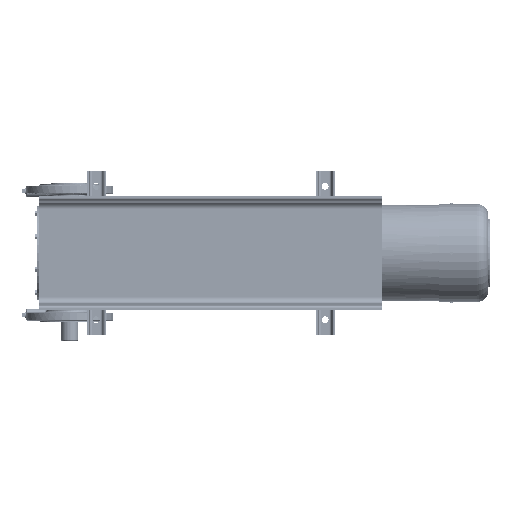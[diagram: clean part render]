
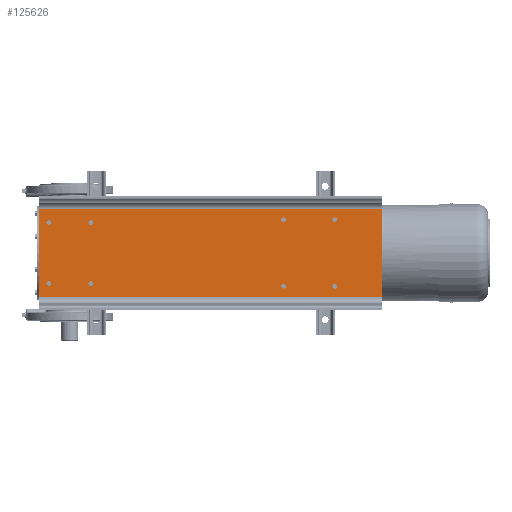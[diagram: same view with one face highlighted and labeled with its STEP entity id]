
A CAD part, left-side view. The second image highlights one B-rep face of the part: STEP entity #125626.
In plain terms, the highlighted planar face has unit normal (-1, 0, 0) as drawn and (1, 0, 0) by its records, which use the part's own axes.
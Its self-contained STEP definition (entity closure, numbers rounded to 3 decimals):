
#124920=DIRECTION('',(0.,0.,-1.));
#124921=VECTOR('',#124920,232.058);
#124922=CARTESIAN_POINT('',(10.,0.,116.029));
#124923=LINE('',#124922,#124921);
#125054=DIRECTION('',(0.,1.,0.));
#125055=VECTOR('',#125054,900.);
#125056=CARTESIAN_POINT('',(10.,0.,-116.029));
#125057=LINE('',#125056,#125055);
#125058=DIRECTION('',(0.,1.,0.));
#125059=VECTOR('',#125058,900.);
#125060=CARTESIAN_POINT('',(10.,0.,116.029));
#125061=LINE('',#125060,#125059);
#125062=CARTESIAN_POINT('',(10.,875.,-80.));
#125063=DIRECTION('',(-1.,0.,0.));
#125064=DIRECTION('',(0.,1.,0.));
#125065=AXIS2_PLACEMENT_3D('',#125062,#125063,#125064);
#125067=CARTESIAN_POINT('',(10.,875.,-80.));
#125068=DIRECTION('',(-1.,0.,0.));
#125069=DIRECTION('',(0.,-1.,0.));
#125070=AXIS2_PLACEMENT_3D('',#125067,#125068,#125069);
#125072=CARTESIAN_POINT('',(10.,875.,80.));
#125073=DIRECTION('',(-1.,0.,0.));
#125074=DIRECTION('',(0.,1.,0.));
#125075=AXIS2_PLACEMENT_3D('',#125072,#125073,#125074);
#125077=CARTESIAN_POINT('',(10.,875.,80.));
#125078=DIRECTION('',(-1.,0.,0.));
#125079=DIRECTION('',(0.,-1.,0.));
#125080=AXIS2_PLACEMENT_3D('',#125077,#125078,#125079);
#125082=CARTESIAN_POINT('',(10.,765.,-80.));
#125083=DIRECTION('',(-1.,0.,0.));
#125084=DIRECTION('',(0.,1.,0.));
#125085=AXIS2_PLACEMENT_3D('',#125082,#125083,#125084);
#125087=CARTESIAN_POINT('',(10.,765.,-80.));
#125088=DIRECTION('',(-1.,0.,0.));
#125089=DIRECTION('',(0.,-1.,0.));
#125090=AXIS2_PLACEMENT_3D('',#125087,#125088,#125089);
#125092=CARTESIAN_POINT('',(10.,765.,80.));
#125093=DIRECTION('',(-1.,0.,0.));
#125094=DIRECTION('',(0.,1.,0.));
#125095=AXIS2_PLACEMENT_3D('',#125092,#125093,#125094);
#125097=CARTESIAN_POINT('',(10.,765.,80.));
#125098=DIRECTION('',(-1.,0.,0.));
#125099=DIRECTION('',(0.,-1.,0.));
#125100=AXIS2_PLACEMENT_3D('',#125097,#125098,#125099);
#125102=CARTESIAN_POINT('',(10.,259.,-87.5));
#125103=DIRECTION('',(-1.,0.,0.));
#125104=DIRECTION('',(0.,1.,0.));
#125105=AXIS2_PLACEMENT_3D('',#125102,#125103,#125104);
#125107=CARTESIAN_POINT('',(10.,259.,-87.5));
#125108=DIRECTION('',(-1.,0.,0.));
#125109=DIRECTION('',(0.,-1.,0.));
#125110=AXIS2_PLACEMENT_3D('',#125107,#125108,#125109);
#125112=CARTESIAN_POINT('',(10.,259.,87.5));
#125113=DIRECTION('',(-1.,0.,0.));
#125114=DIRECTION('',(0.,1.,0.));
#125115=AXIS2_PLACEMENT_3D('',#125112,#125113,#125114);
#125117=CARTESIAN_POINT('',(10.,259.,87.5));
#125118=DIRECTION('',(-1.,0.,0.));
#125119=DIRECTION('',(0.,-1.,0.));
#125120=AXIS2_PLACEMENT_3D('',#125117,#125118,#125119);
#125122=CARTESIAN_POINT('',(10.,125.,-87.5));
#125123=DIRECTION('',(-1.,0.,0.));
#125124=DIRECTION('',(0.,1.,0.));
#125125=AXIS2_PLACEMENT_3D('',#125122,#125123,#125124);
#125127=CARTESIAN_POINT('',(10.,125.,-87.5));
#125128=DIRECTION('',(-1.,0.,0.));
#125129=DIRECTION('',(0.,-1.,0.));
#125130=AXIS2_PLACEMENT_3D('',#125127,#125128,#125129);
#125132=CARTESIAN_POINT('',(10.,125.,87.5));
#125133=DIRECTION('',(-1.,0.,0.));
#125134=DIRECTION('',(0.,1.,0.));
#125135=AXIS2_PLACEMENT_3D('',#125132,#125133,#125134);
#125137=CARTESIAN_POINT('',(10.,125.,87.5));
#125138=DIRECTION('',(-1.,0.,0.));
#125139=DIRECTION('',(0.,-1.,0.));
#125140=AXIS2_PLACEMENT_3D('',#125137,#125138,#125139);
#125188=DIRECTION('',(0.,0.,-1.));
#125189=VECTOR('',#125188,232.058);
#125190=CARTESIAN_POINT('',(10.,900.,116.029));
#125191=LINE('',#125190,#125189);
#125284=CARTESIAN_POINT('',(10.,0.,116.029));
#125285=VERTEX_POINT('',#125284);
#125286=CARTESIAN_POINT('',(10.,0.,-116.029));
#125287=VERTEX_POINT('',#125286);
#125308=CARTESIAN_POINT('',(10.,900.,116.029));
#125309=VERTEX_POINT('',#125308);
#125310=CARTESIAN_POINT('',(10.,900.,-116.029));
#125311=VERTEX_POINT('',#125310);
#125322=CARTESIAN_POINT('',(10.,880.25,-80.));
#125323=CARTESIAN_POINT('',(10.,869.75,-80.));
#125324=VERTEX_POINT('',#125322);
#125325=VERTEX_POINT('',#125323);
#125330=CARTESIAN_POINT('',(10.,880.25,80.));
#125331=CARTESIAN_POINT('',(10.,869.75,80.));
#125332=VERTEX_POINT('',#125330);
#125333=VERTEX_POINT('',#125331);
#125338=CARTESIAN_POINT('',(10.,770.25,-80.));
#125339=CARTESIAN_POINT('',(10.,759.75,-80.));
#125340=VERTEX_POINT('',#125338);
#125341=VERTEX_POINT('',#125339);
#125346=CARTESIAN_POINT('',(10.,770.25,80.));
#125347=CARTESIAN_POINT('',(10.,759.75,80.));
#125348=VERTEX_POINT('',#125346);
#125349=VERTEX_POINT('',#125347);
#125354=CARTESIAN_POINT('',(10.,264.5,-87.5));
#125355=CARTESIAN_POINT('',(10.,253.5,-87.5));
#125356=VERTEX_POINT('',#125354);
#125357=VERTEX_POINT('',#125355);
#125362=CARTESIAN_POINT('',(10.,264.5,87.5));
#125363=CARTESIAN_POINT('',(10.,253.5,87.5));
#125364=VERTEX_POINT('',#125362);
#125365=VERTEX_POINT('',#125363);
#125370=CARTESIAN_POINT('',(10.,130.5,-87.5));
#125371=CARTESIAN_POINT('',(10.,119.5,-87.5));
#125372=VERTEX_POINT('',#125370);
#125373=VERTEX_POINT('',#125371);
#125378=CARTESIAN_POINT('',(10.,130.5,87.5));
#125379=CARTESIAN_POINT('',(10.,119.5,87.5));
#125380=VERTEX_POINT('',#125378);
#125381=VERTEX_POINT('',#125379);
#125565=CARTESIAN_POINT('',(10.,0.,116.029));
#125566=DIRECTION('',(1.,0.,0.));
#125567=DIRECTION('',(0.,0.,-1.));
#125568=AXIS2_PLACEMENT_3D('',#125565,#125566,#125567);
#125569=PLANE('',#125568);
#125570=ORIENTED_EDGE('',*,*,#125401,.F.);
#125572=ORIENTED_EDGE('',*,*,#125571,.T.);
#125574=ORIENTED_EDGE('',*,*,#125573,.T.);
#125575=ORIENTED_EDGE('',*,*,#125557,.F.);
#125576=EDGE_LOOP('',(#125570,#125572,#125574,#125575));
#125577=FACE_OUTER_BOUND('',#125576,.F.);
#125579=ORIENTED_EDGE('',*,*,#125578,.F.);
#125581=ORIENTED_EDGE('',*,*,#125580,.F.);
#125582=EDGE_LOOP('',(#125579,#125581));
#125583=FACE_BOUND('',#125582,.F.);
#125585=ORIENTED_EDGE('',*,*,#125584,.F.);
#125587=ORIENTED_EDGE('',*,*,#125586,.F.);
#125588=EDGE_LOOP('',(#125585,#125587));
#125589=FACE_BOUND('',#125588,.F.);
#125591=ORIENTED_EDGE('',*,*,#125590,.F.);
#125593=ORIENTED_EDGE('',*,*,#125592,.F.);
#125594=EDGE_LOOP('',(#125591,#125593));
#125595=FACE_BOUND('',#125594,.F.);
#125597=ORIENTED_EDGE('',*,*,#125596,.F.);
#125599=ORIENTED_EDGE('',*,*,#125598,.F.);
#125600=EDGE_LOOP('',(#125597,#125599));
#125601=FACE_BOUND('',#125600,.F.);
#125603=ORIENTED_EDGE('',*,*,#125602,.F.);
#125605=ORIENTED_EDGE('',*,*,#125604,.F.);
#125606=EDGE_LOOP('',(#125603,#125605));
#125607=FACE_BOUND('',#125606,.F.);
#125609=ORIENTED_EDGE('',*,*,#125608,.F.);
#125611=ORIENTED_EDGE('',*,*,#125610,.F.);
#125612=EDGE_LOOP('',(#125609,#125611));
#125613=FACE_BOUND('',#125612,.F.);
#125615=ORIENTED_EDGE('',*,*,#125614,.F.);
#125617=ORIENTED_EDGE('',*,*,#125616,.F.);
#125618=EDGE_LOOP('',(#125615,#125617));
#125619=FACE_BOUND('',#125618,.F.);
#125621=ORIENTED_EDGE('',*,*,#125620,.F.);
#125623=ORIENTED_EDGE('',*,*,#125622,.F.);
#125624=EDGE_LOOP('',(#125621,#125623));
#125625=FACE_BOUND('',#125624,.F.);
#125626=ADVANCED_FACE('',(#125577,#125583,#125589,#125595,#125601,#125607,
#125613,#125619,#125625),#125569,.T.);
#125066=CIRCLE('',#125065,5.25);
#125071=CIRCLE('',#125070,5.25);
#125076=CIRCLE('',#125075,5.25);
#125081=CIRCLE('',#125080,5.25);
#125086=CIRCLE('',#125085,5.25);
#125091=CIRCLE('',#125090,5.25);
#125096=CIRCLE('',#125095,5.25);
#125101=CIRCLE('',#125100,5.25);
#125106=CIRCLE('',#125105,5.5);
#125111=CIRCLE('',#125110,5.5);
#125116=CIRCLE('',#125115,5.5);
#125121=CIRCLE('',#125120,5.5);
#125126=CIRCLE('',#125125,5.5);
#125131=CIRCLE('',#125130,5.5);
#125136=CIRCLE('',#125135,5.5);
#125141=CIRCLE('',#125140,5.5);
#125401=EDGE_CURVE('',#125285,#125287,#124923,.T.);
#125557=EDGE_CURVE('',#125287,#125311,#125057,.T.);
#125571=EDGE_CURVE('',#125285,#125309,#125061,.T.);
#125573=EDGE_CURVE('',#125309,#125311,#125191,.T.);
#125578=EDGE_CURVE('',#125324,#125325,#125066,.T.);
#125580=EDGE_CURVE('',#125325,#125324,#125071,.T.);
#125584=EDGE_CURVE('',#125332,#125333,#125076,.T.);
#125586=EDGE_CURVE('',#125333,#125332,#125081,.T.);
#125590=EDGE_CURVE('',#125340,#125341,#125086,.T.);
#125592=EDGE_CURVE('',#125341,#125340,#125091,.T.);
#125596=EDGE_CURVE('',#125348,#125349,#125096,.T.);
#125598=EDGE_CURVE('',#125349,#125348,#125101,.T.);
#125602=EDGE_CURVE('',#125356,#125357,#125106,.T.);
#125604=EDGE_CURVE('',#125357,#125356,#125111,.T.);
#125608=EDGE_CURVE('',#125364,#125365,#125116,.T.);
#125610=EDGE_CURVE('',#125365,#125364,#125121,.T.);
#125614=EDGE_CURVE('',#125372,#125373,#125126,.T.);
#125616=EDGE_CURVE('',#125373,#125372,#125131,.T.);
#125620=EDGE_CURVE('',#125380,#125381,#125136,.T.);
#125622=EDGE_CURVE('',#125381,#125380,#125141,.T.);
